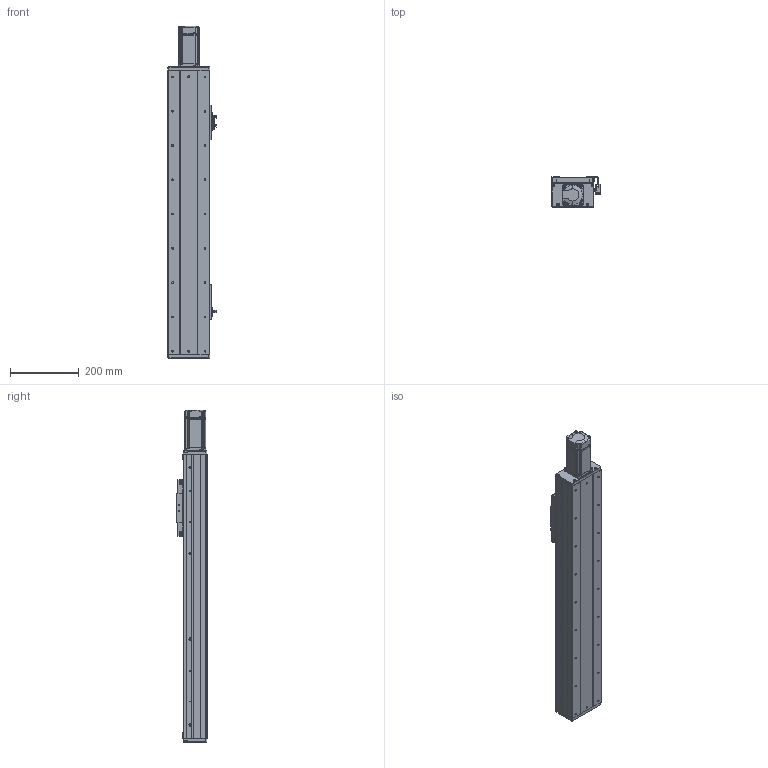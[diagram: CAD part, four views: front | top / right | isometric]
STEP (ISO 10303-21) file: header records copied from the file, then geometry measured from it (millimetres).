
FILE_DESCRIPTION (( 'STEP AP203' ), '1' );
FILE_NAME ('RY120F-L1620-300-MK.SLDASM_550.step', '2021-03-02T06:02:04', ( '盈信电脑' ), ( '东莞市道滘镇水果街19号' ), 'SwSTEP 2.0', 'SolidWorks 2012', '' );
FILE_SCHEMA (( 'CONFIG_CONTROL_DESIGN' ));
Length unit declared in the file: millimetre
Products named in the file (19): RY120F-L1620-300-MK.SLDASM_550; RY120F-臏賑輸 16蹟譫; 滅袉蝶18-28; FY120F詩湍揤踡輸; RY80俋离覜茼え; 672嫖萇羲壽假蚾釱; 覜茼ん672; RY120F綴裔啣(臏璃ㄘ; 滅袉蝶18-24; RY120F-詩湍幗謫粣; 15; RY120F祥凄詩滅鳥裔; RY120F眻蟀ヶ裔啣; 侂狟400W侜督萇儂; RY120F-300-倰第裔啣_550; RY120F-臏賑輸奻釱; RY120F滅鳥詩湍-300-MK_550; 絳寢賑輸EGH15; RY120F-300-倰第菁釱_550
Assembly tree (25 placements, depth 3):
  RY120F-L1620-300-MK.SLDASM_550
    RY120F-300-倰第菁釱_550
    RY120F-300-倰第裔啣_550  x2
    RY120F滅鳥詩湍-300-MK_550
    絳寢賑輸EGH15  x2
    RY120F-臏賑輸奻釱
    侂狟400W侜督萇儂
      15
    RY120F眻蟀ヶ裔啣
    RY120F祥凄詩滅鳥裔
    滅袉蝶18-24
    RY120F綴裔啣(臏璃ㄘ
    RY120F-詩湍幗謫粣
    覜茼ん672  x3
    672嫖萇羲壽假蚾釱  x2
    RY80俋离覜茼え
    FY120F詩湍揤踡輸  x2
    RY120F-臏賑輸 16蹟譫
    滅袉蝶18-28  x2
Bounding box: 140.35 x 89 x 968.5 mm (x, y, z)
Volume: 3124299.1 mm3; surface area: 1087129.3 mm2
Topology: 24 solids, 24 shells, 2129 faces, 5685 edges, 3657 vertices
Faces by surface type: plane 966, cylinder 946, cone 199, bspline 18
Entity records: 56674 total; most frequent: CARTESIAN_POINT 10109, DIRECTION 9623, ORIENTED_EDGE 8990, EDGE_CURVE 4495, AXIS2_PLACEMENT_3D 3473, VERTEX_POINT 2941, LINE 2677, VECTOR 2677
